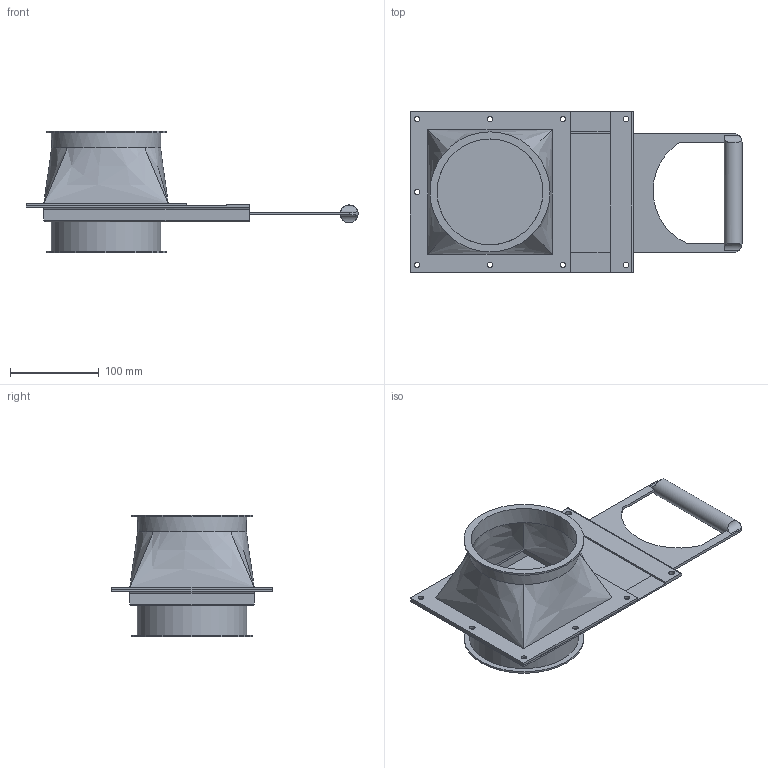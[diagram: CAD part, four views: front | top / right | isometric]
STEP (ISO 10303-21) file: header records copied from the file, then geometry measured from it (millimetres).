
FILE_DESCRIPTION((''),'2;1');
FILE_NAME('U:\Wolfgang\Marcel-3D\fertig\Kapitel 9\1221080.stp','2011-11-30T10:15:16',('iwienholt'),(''),'Autodesk Inventor 2010','Autodesk Inventor 2010','');
FILE_SCHEMA(('AUTOMOTIVE_DESIGN { 1 0 10303 214 1 1 1 1 }'));
Length unit declared in the file: millimetre
Products named in the file (4): 1221080; DN120-1; DN120-2; Schieberplatte DN120
Assembly tree (3 placements, depth 2):
  1221080
    DN120-1
    DN120-2
    Schieberplatte DN120
Bounding box: 373.44 x 180 x 137 mm (x, y, z)
Volume: 410000.3 mm3; surface area: 330049.4 mm2
Topology: 3 solids, 3 shells, 105 faces, 295 edges, 197 vertices
Faces by surface type: plane 58, bspline 25, cylinder 22
Full cylindrical faces by diameter (mm): 20 x1, 119 x2, 123 x3, 135 x2
Entity records: 4102 total; most frequent: CARTESIAN_POINT 1443, ORIENTED_EDGE 518, DIRECTION 485, EDGE_CURVE 259, VERTEX_POINT 186, EDGE_LOOP 173, AXIS2_PLACEMENT_3D 172, VECTOR 141
